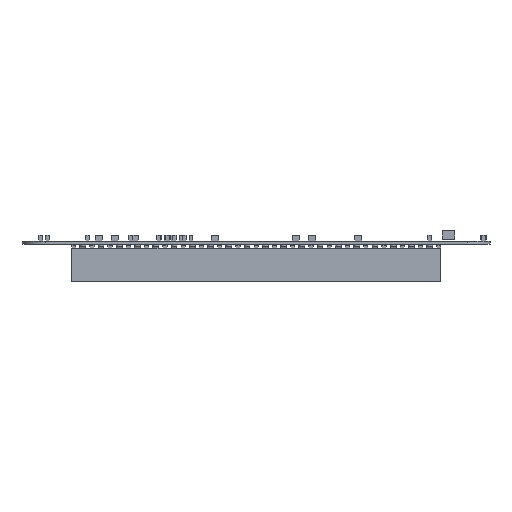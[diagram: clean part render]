
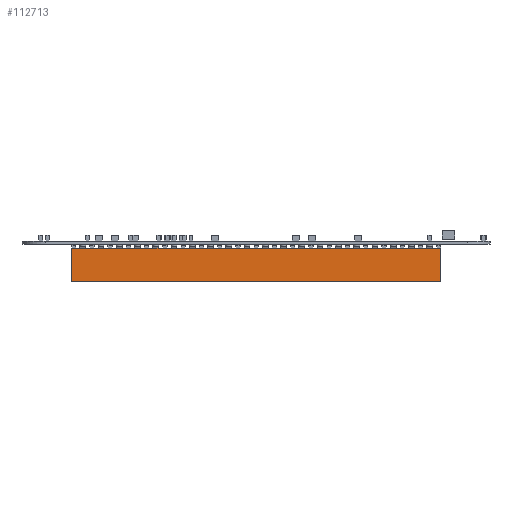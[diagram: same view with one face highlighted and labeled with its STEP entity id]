
A CAD part, front view. The second image highlights one B-rep face of the part: STEP entity #112713.
In plain terms, the highlighted planar face has unit normal (0, -1, 0) as drawn and (0, 0, -1) by its records, which use the part's own axes.
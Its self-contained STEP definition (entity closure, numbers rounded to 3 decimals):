
#72520 = PLANE('',#72521);
#72521 = AXIS2_PLACEMENT_3D('',#72522,#72523,#72524);
#72522 = CARTESIAN_POINT('',(25.65,2.52,0.));
#72523 = DIRECTION('',(1.,0.,0.));
#72524 = DIRECTION('',(0.,0.,-1.));
#72576 = PLANE('',#72577);
#72577 = AXIS2_PLACEMENT_3D('',#72578,#72579,#72580);
#72578 = CARTESIAN_POINT('',(-25.65,2.52,0.)
  );
#72579 = DIRECTION('',(1.,0.,0.));
#72580 = DIRECTION('',(0.,0.,-1.));
#74991 = PLANE('',#74992);
#74992 = AXIS2_PLACEMENT_3D('',#74993,#74994,#74995);
#74993 = CARTESIAN_POINT('',(-25.65,0.4,-2.6));
#74994 = DIRECTION('',(0.,-1.,0.));
#74995 = DIRECTION('',(0.,0.,-1.));
#87072 = EDGE_CURVE('',#87073,#87075,#87077,.T.);
#87073 = VERTEX_POINT('',#87074);
#87074 = CARTESIAN_POINT('',(-25.65,0.4,-2.6));
#87075 = VERTEX_POINT('',#87076);
#87076 = CARTESIAN_POINT('',(25.65,0.4,-2.6));
#87077 = SURFACE_CURVE('',#87078,(#87082,#87089),.PCURVE_S1.);
#87078 = LINE('',#87079,#87080);
#87079 = CARTESIAN_POINT('',(-25.65,0.4,-2.6));
#87080 = VECTOR('',#87081,1.);
#87081 = DIRECTION('',(1.,0.,0.));
#87082 = PCURVE('',#74991,#87083);
#87083 = DEFINITIONAL_REPRESENTATION('',(#87084),#87088);
#87084 = LINE('',#87085,#87086);
#87085 = CARTESIAN_POINT('',(0.,0.));
#87086 = VECTOR('',#87087,1.);
#87087 = DIRECTION('',(0.,1.));
#87088 = ( GEOMETRIC_REPRESENTATION_CONTEXT(2) 
PARAMETRIC_REPRESENTATION_CONTEXT() REPRESENTATION_CONTEXT('2D SPACE',''
  ) );
#87089 = PCURVE('',#87090,#87095);
#87090 = PLANE('',#87091);
#87091 = AXIS2_PLACEMENT_3D('',#87092,#87093,#87094);
#87092 = CARTESIAN_POINT('',(-25.65,5.,-2.6));
#87093 = DIRECTION('',(0.,0.,-1.));
#87094 = DIRECTION('',(0.,1.,0.));
#87095 = DEFINITIONAL_REPRESENTATION('',(#87096),#87100);
#87096 = LINE('',#87097,#87098);
#87097 = CARTESIAN_POINT('',(-4.6,0.));
#87098 = VECTOR('',#87099,1.);
#87099 = DIRECTION('',(0.,1.));
#87100 = ( GEOMETRIC_REPRESENTATION_CONTEXT(2) 
PARAMETRIC_REPRESENTATION_CONTEXT() REPRESENTATION_CONTEXT('2D SPACE',''
  ) );
#88174 = PLANE('',#88175);
#88175 = AXIS2_PLACEMENT_3D('',#88176,#88177,#88178);
#88176 = CARTESIAN_POINT('',(-25.65,5.,2.6));
#88177 = DIRECTION('',(0.,1.,0.));
#88178 = DIRECTION('',(0.,0.,1.));
#112647 = VERTEX_POINT('',#112648);
#112648 = CARTESIAN_POINT('',(25.65,5.,-2.6));
#112669 = EDGE_CURVE('',#112670,#112647,#112672,.T.);
#112670 = VERTEX_POINT('',#112671);
#112671 = CARTESIAN_POINT('',(-25.65,5.,-2.6));
#112672 = SURFACE_CURVE('',#112673,(#112677,#112684),.PCURVE_S1.);
#112673 = LINE('',#112674,#112675);
#112674 = CARTESIAN_POINT('',(-25.65,5.,-2.6));
#112675 = VECTOR('',#112676,1.);
#112676 = DIRECTION('',(1.,0.,0.));
#112677 = PCURVE('',#88174,#112678);
#112678 = DEFINITIONAL_REPRESENTATION('',(#112679),#112683);
#112679 = LINE('',#112680,#112681);
#112680 = CARTESIAN_POINT('',(-5.2,0.));
#112681 = VECTOR('',#112682,1.);
#112682 = DIRECTION('',(0.,1.));
#112683 = ( GEOMETRIC_REPRESENTATION_CONTEXT(2) 
PARAMETRIC_REPRESENTATION_CONTEXT() REPRESENTATION_CONTEXT('2D SPACE',''
  ) );
#112684 = PCURVE('',#87090,#112685);
#112685 = DEFINITIONAL_REPRESENTATION('',(#112686),#112690);
#112686 = LINE('',#112687,#112688);
#112687 = CARTESIAN_POINT('',(0.,0.));
#112688 = VECTOR('',#112689,1.);
#112689 = DIRECTION('',(0.,1.));
#112690 = ( GEOMETRIC_REPRESENTATION_CONTEXT(2) 
PARAMETRIC_REPRESENTATION_CONTEXT() REPRESENTATION_CONTEXT('2D SPACE',''
  ) );
#112713 = ADVANCED_FACE('',(#112714),#87090,.T.);
#112714 = FACE_BOUND('',#112715,.T.);
#112715 = EDGE_LOOP('',(#112716,#112737,#112738,#112759));
#112716 = ORIENTED_EDGE('',*,*,#112717,.T.);
#112717 = EDGE_CURVE('',#112647,#87075,#112718,.T.);
#112718 = SURFACE_CURVE('',#112719,(#112723,#112730),.PCURVE_S1.);
#112719 = LINE('',#112720,#112721);
#112720 = CARTESIAN_POINT('',(25.65,0.4,-2.6));
#112721 = VECTOR('',#112722,1.);
#112722 = DIRECTION('',(0.,-1.,0.));
#112723 = PCURVE('',#87090,#112724);
#112724 = DEFINITIONAL_REPRESENTATION('',(#112725),#112729);
#112725 = LINE('',#112726,#112727);
#112726 = CARTESIAN_POINT('',(-4.6,51.3));
#112727 = VECTOR('',#112728,1.);
#112728 = DIRECTION('',(-1.,0.));
#112729 = ( GEOMETRIC_REPRESENTATION_CONTEXT(2) 
PARAMETRIC_REPRESENTATION_CONTEXT() REPRESENTATION_CONTEXT('2D SPACE',''
  ) );
#112730 = PCURVE('',#72520,#112731);
#112731 = DEFINITIONAL_REPRESENTATION('',(#112732),#112736);
#112732 = LINE('',#112733,#112734);
#112733 = CARTESIAN_POINT('',(2.6,-2.12));
#112734 = VECTOR('',#112735,1.);
#112735 = DIRECTION('',(0.,-1.));
#112736 = ( GEOMETRIC_REPRESENTATION_CONTEXT(2) 
PARAMETRIC_REPRESENTATION_CONTEXT() REPRESENTATION_CONTEXT('2D SPACE',''
  ) );
#112737 = ORIENTED_EDGE('',*,*,#87072,.F.);
#112738 = ORIENTED_EDGE('',*,*,#112739,.T.);
#112739 = EDGE_CURVE('',#87073,#112670,#112740,.T.);
#112740 = SURFACE_CURVE('',#112741,(#112745,#112752),.PCURVE_S1.);
#112741 = LINE('',#112742,#112743);
#112742 = CARTESIAN_POINT('',(-25.65,0.4,-2.6));
#112743 = VECTOR('',#112744,1.);
#112744 = DIRECTION('',(0.,1.,0.));
#112745 = PCURVE('',#87090,#112746);
#112746 = DEFINITIONAL_REPRESENTATION('',(#112747),#112751);
#112747 = LINE('',#112748,#112749);
#112748 = CARTESIAN_POINT('',(-4.6,0.));
#112749 = VECTOR('',#112750,1.);
#112750 = DIRECTION('',(1.,0.));
#112751 = ( GEOMETRIC_REPRESENTATION_CONTEXT(2) 
PARAMETRIC_REPRESENTATION_CONTEXT() REPRESENTATION_CONTEXT('2D SPACE',''
  ) );
#112752 = PCURVE('',#72576,#112753);
#112753 = DEFINITIONAL_REPRESENTATION('',(#112754),#112758);
#112754 = LINE('',#112755,#112756);
#112755 = CARTESIAN_POINT('',(2.6,-2.12));
#112756 = VECTOR('',#112757,1.);
#112757 = DIRECTION('',(0.,1.));
#112758 = ( GEOMETRIC_REPRESENTATION_CONTEXT(2) 
PARAMETRIC_REPRESENTATION_CONTEXT() REPRESENTATION_CONTEXT('2D SPACE',''
  ) );
#112759 = ORIENTED_EDGE('',*,*,#112669,.T.);
